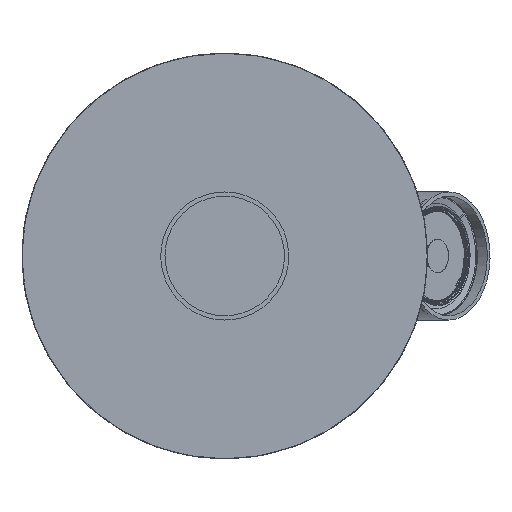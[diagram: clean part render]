
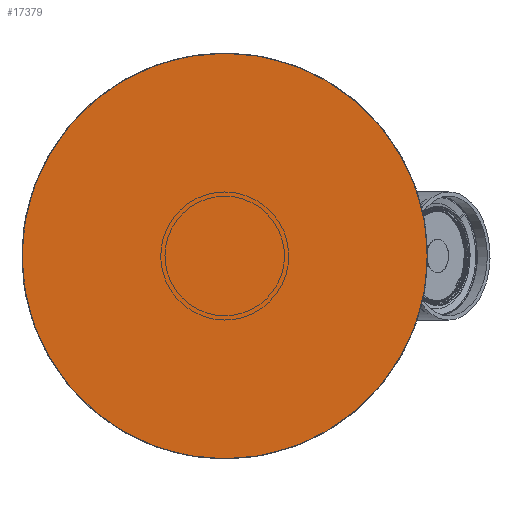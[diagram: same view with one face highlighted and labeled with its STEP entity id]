
A CAD part, front view. The second image highlights one B-rep face of the part: STEP entity #17379.
In plain terms, the highlighted planar face has unit normal (0, -1, 0).
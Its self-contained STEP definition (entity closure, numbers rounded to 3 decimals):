
#533 = EDGE_CURVE ( 'NONE', #3530, #9522, #6713, .T. ) ;
#1426 = CARTESIAN_POINT ( 'NONE',  ( 30.61, 0., -90.148 ) ) ;
#1987 = CARTESIAN_POINT ( 'NONE',  ( -42.099, 0., 85.389 ) ) ;
#1995 = CARTESIAN_POINT ( 'NONE',  ( 12.435, 0., -94.388 ) ) ;
#2036 = ORIENTED_EDGE ( 'NONE', *, *, #12137, .F. ) ;
#2577 = FACE_OUTER_BOUND ( 'NONE', #23603, .T. ) ;
#2894 = CARTESIAN_POINT ( 'NONE',  ( 62.779, 0., 71.572 ) ) ;
#3032 = CARTESIAN_POINT ( 'NONE',  ( 94.388, 0., 12.435 ) ) ;
#3530 = VERTEX_POINT ( 'NONE', #11736 ) ;
#4016 = CARTESIAN_POINT ( 'NONE',  ( -71.572, 0., 62.779 ) ) ;
#4168 = CARTESIAN_POINT ( 'NONE',  ( -47.609, 0., 82.444 ) ) ;
#4310 = CARTESIAN_POINT ( 'NONE',  ( -6.218, 0., 95. ) ) ;
#4602 = PLANE ( 'NONE',  #21268 ) ;
#5073 = CARTESIAN_POINT ( 'NONE',  ( 0., 0., 95. ) ) ;
#5657 = CARTESIAN_POINT ( 'NONE',  ( 90.148, 0., -30.61 ) ) ;
#5678 = CARTESIAN_POINT ( 'NONE',  ( -30.61, 0., -90.148 ) ) ;
#6229 = CARTESIAN_POINT ( 'NONE',  ( 71.572, 0., -62.779 ) ) ;
#6365 = CARTESIAN_POINT ( 'NONE',  ( -57.949, 0., -75.535 ) ) ;
#6511 = CARTESIAN_POINT ( 'NONE',  ( -91.962, 0., 24.632 ) ) ;
#6661 = CARTESIAN_POINT ( 'NONE',  ( -24.632, 0., 91.962 ) ) ;
#6713 = B_SPLINE_CURVE_WITH_KNOTS ( 'NONE', 3,
 ( #27855, #25405, #21186, #25683, #5678, #12391, #21339, #6365, #28535, #8990, #13217, #19664, #15561, #11177, #8556, #27999, #6804, #15128, #24319, #6511, #26789, #10746, #17463, #15703, #4016, #28827, #22436, #4168, #1987, #26220, #6661, #26360, #4310, #12929 ),
 .UNSPECIFIED., .F., .F.,
 ( 4, 2, 2, 2, 2, 2, 2, 2, 2, 2, 2, 2, 2, 2, 2, 2, 4 ),
 ( 0., 0.063, 0.125, 0.188, 0.25, 0.312, 0.375, 0.437, 0.5, 0.562, 0.625, 0.687, 0.75, 0.812, 0.875, 0.937, 1. ),
 .UNSPECIFIED. ) ;
#6804 = CARTESIAN_POINT ( 'NONE',  ( -95., 0., -6.218 ) ) ;
#7108 = CARTESIAN_POINT ( 'NONE',  ( 0., 0., 95. ) ) ;
#7710 = CARTESIAN_POINT ( 'NONE',  ( 90.148, 0., 30.61 ) ) ;
#7854 = CARTESIAN_POINT ( 'NONE',  ( 95., 0., -6.218 ) ) ;
#8556 = CARTESIAN_POINT ( 'NONE',  ( -91.962, 0., -24.632 ) ) ;
#8990 = CARTESIAN_POINT ( 'NONE',  ( -71.572, 0., -62.779 ) ) ;
#9522 = VERTEX_POINT ( 'NONE', #7108 ) ;
#9752 = CARTESIAN_POINT ( 'NONE',  ( 24.632, 0., 91.962 ) ) ;
#9896 = CARTESIAN_POINT ( 'NONE',  ( 12.435, 0., 94.388 ) ) ;
#10330 = CARTESIAN_POINT ( 'NONE',  ( 42.099, 0., -85.389 ) ) ;
#10613 = CARTESIAN_POINT ( 'NONE',  ( 0., 0., -95. ) ) ;
#10746 = CARTESIAN_POINT ( 'NONE',  ( -85.389, 0., 42.099 ) ) ;
#10753 = CARTESIAN_POINT ( 'NONE',  ( 62.779, 0., -71.572 ) ) ;
#11177 = CARTESIAN_POINT ( 'NONE',  ( -90.148, 0., -30.61 ) ) ;
#11181 = DIRECTION ( 'NONE',  ( 0., 1., 0. ) ) ;
#11736 = CARTESIAN_POINT ( 'NONE',  ( 0., 0., -95. ) ) ;
#12137 = EDGE_CURVE ( 'NONE', #9522, #3530, #19987, .T. ) ;
#12365 = CARTESIAN_POINT ( 'NONE',  ( 82.444, 0., -47.609 ) ) ;
#12391 = CARTESIAN_POINT ( 'NONE',  ( -42.099, 0., -85.389 ) ) ;
#12660 = CARTESIAN_POINT ( 'NONE',  ( 57.949, 0., -75.535 ) ) ;
#12929 = CARTESIAN_POINT ( 'NONE',  ( 0., 0., 95. ) ) ;
#13217 = CARTESIAN_POINT ( 'NONE',  ( -75.535, 0., -57.949 ) ) ;
#14273 = CARTESIAN_POINT ( 'NONE',  ( 94.388, 0., -12.435 ) ) ;
#14421 = CARTESIAN_POINT ( 'NONE',  ( 57.949, 0., 75.535 ) ) ;
#15128 = CARTESIAN_POINT ( 'NONE',  ( -95., 0., 6.218 ) ) ;
#15561 = CARTESIAN_POINT ( 'NONE',  ( -85.389, 0., -42.099 ) ) ;
#15703 = CARTESIAN_POINT ( 'NONE',  ( -75.535, 0., 57.949 ) ) ;
#15999 = DIRECTION ( 'NONE',  ( 1., 0., 0. ) ) ;
#16289 = CARTESIAN_POINT ( 'NONE',  ( 0., 0., 0. ) ) ;
#16465 = CARTESIAN_POINT ( 'NONE',  ( 42.099, 0., 85.389 ) ) ;
#16615 = CARTESIAN_POINT ( 'NONE',  ( 91.962, 0., 24.632 ) ) ;
#16759 = CARTESIAN_POINT ( 'NONE',  ( 91.962, 0., -24.632 ) ) ;
#17196 = CARTESIAN_POINT ( 'NONE',  ( 6.218, 0., -95. ) ) ;
#17379 = ADVANCED_FACE ( 'NONE', ( #2577 ), #4602, .F. ) ;
#17463 = CARTESIAN_POINT ( 'NONE',  ( -82.444, 0., 47.609 ) ) ;
#19664 = CARTESIAN_POINT ( 'NONE',  ( -82.444, 0., -47.609 ) ) ;
#19671 = CARTESIAN_POINT ( 'NONE',  ( 47.609, 0., -82.444 ) ) ;
#19987 = B_SPLINE_CURVE_WITH_KNOTS ( 'NONE', 3,
 ( #5073, #23344, #9896, #9752, #22910, #16465, #21162, #14421, #2894, #23055, #25527, #27684, #27832, #7710, #16615, #3032, #25380, #7854, #14273, #16759, #5657, #23487, #12365, #21307, #6229, #10753, #12660, #19671, #10330, #1426, #23764, #1995, #17196, #10613 ),
 .UNSPECIFIED., .F., .F.,
 ( 4, 2, 2, 2, 2, 2, 2, 2, 2, 2, 2, 2, 2, 2, 2, 2, 4 ),
 ( 0., 0.062, 0.125, 0.187, 0.25, 0.313, 0.375, 0.438, 0.5, 0.563, 0.625, 0.688, 0.75, 0.813, 0.875, 0.938, 1. ),
 .UNSPECIFIED. ) ;
#20008 = ORIENTED_EDGE ( 'NONE', *, *, #533, .F. ) ;
#21162 = CARTESIAN_POINT ( 'NONE',  ( 47.609, 0., 82.444 ) ) ;
#21186 = CARTESIAN_POINT ( 'NONE',  ( -12.435, 0., -94.388 ) ) ;
#21268 = AXIS2_PLACEMENT_3D ( 'NONE', #16289, #11181, #15999 ) ;
#21307 = CARTESIAN_POINT ( 'NONE',  ( 75.535, 0., -57.949 ) ) ;
#21339 = CARTESIAN_POINT ( 'NONE',  ( -47.609, 0., -82.444 ) ) ;
#22436 = CARTESIAN_POINT ( 'NONE',  ( -57.949, 0., 75.535 ) ) ;
#22910 = CARTESIAN_POINT ( 'NONE',  ( 30.61, 0., 90.148 ) ) ;
#23055 = CARTESIAN_POINT ( 'NONE',  ( 71.572, 0., 62.779 ) ) ;
#23344 = CARTESIAN_POINT ( 'NONE',  ( 6.218, 0., 95. ) ) ;
#23487 = CARTESIAN_POINT ( 'NONE',  ( 85.389, 0., -42.099 ) ) ;
#23603 = EDGE_LOOP ( 'NONE', ( #2036, #20008 ) ) ;
#23764 = CARTESIAN_POINT ( 'NONE',  ( 24.632, 0., -91.962 ) ) ;
#24319 = CARTESIAN_POINT ( 'NONE',  ( -94.388, 0., 12.435 ) ) ;
#25380 = CARTESIAN_POINT ( 'NONE',  ( 95., 0., 6.218 ) ) ;
#25405 = CARTESIAN_POINT ( 'NONE',  ( -6.218, 0., -95. ) ) ;
#25527 = CARTESIAN_POINT ( 'NONE',  ( 75.535, 0., 57.949 ) ) ;
#25683 = CARTESIAN_POINT ( 'NONE',  ( -24.632, 0., -91.962 ) ) ;
#26220 = CARTESIAN_POINT ( 'NONE',  ( -30.61, 0., 90.148 ) ) ;
#26360 = CARTESIAN_POINT ( 'NONE',  ( -12.435, 0., 94.388 ) ) ;
#26789 = CARTESIAN_POINT ( 'NONE',  ( -90.148, 0., 30.61 ) ) ;
#27684 = CARTESIAN_POINT ( 'NONE',  ( 82.444, 0., 47.609 ) ) ;
#27832 = CARTESIAN_POINT ( 'NONE',  ( 85.389, 0., 42.099 ) ) ;
#27855 = CARTESIAN_POINT ( 'NONE',  ( 0., 0., -95. ) ) ;
#27999 = CARTESIAN_POINT ( 'NONE',  ( -94.388, 0., -12.435 ) ) ;
#28535 = CARTESIAN_POINT ( 'NONE',  ( -62.779, 0., -71.572 ) ) ;
#28827 = CARTESIAN_POINT ( 'NONE',  ( -62.779, 0., 71.572 ) ) ;
